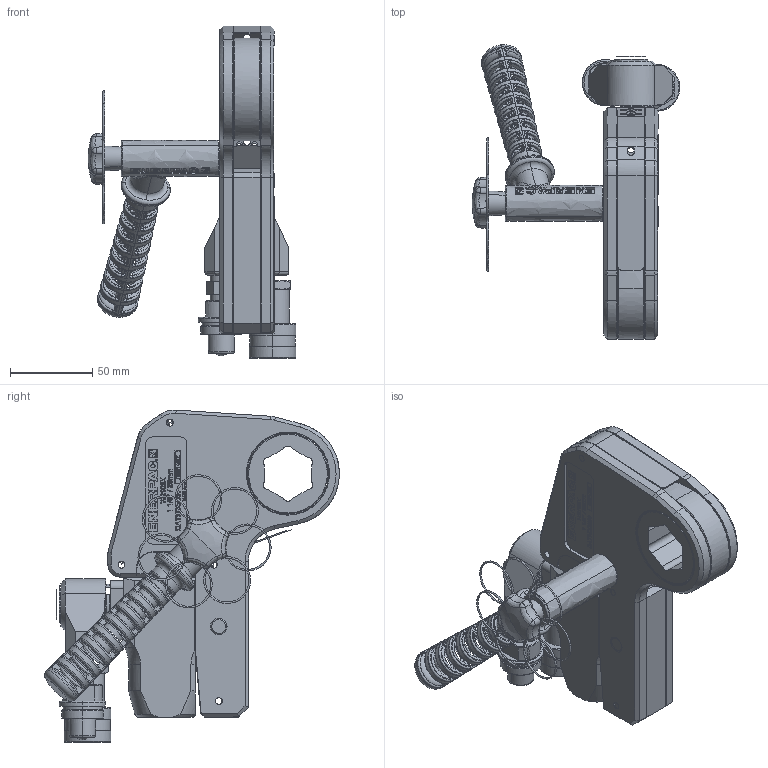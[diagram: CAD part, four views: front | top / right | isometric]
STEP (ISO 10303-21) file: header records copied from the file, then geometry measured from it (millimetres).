
FILE_DESCRIPTION((''),'2;1');
FILE_NAME('W2102X_WITH_W2000X','2015-03-31T',('david.cox'),(''),'PRO/ENGINEER BY PARAMETRIC TECHNOLOGY CORPORATION, 2014200','PRO/ENGINEER BY PARAMETRIC TECHNOLOGY CORPORATION, 2014200','');
FILE_SCHEMA(('CONFIG_CONTROL_DESIGN'));
Products named in the file (1): W2102X_WITH_W2000X
Bounding box: 126.05 x 178.85 x 201.46 mm (x, y, z)
Surface area: 134536.8 mm2 (no closed solid volume)
Topology: 0 solids, 0 shells, 800 faces, 6340 edges, 6267 vertices
Faces by surface type: bspline 710, torus 86, sphere 4
Entity records: 782360 total; most frequent: CARTESIAN_POINT 728435, DIRECTION 7767, TRIMMED_CURVE 6706, DEFINITIONAL_REPRESENTATION 6203, PCURVE 6203, COMPOSITE_CURVE_SEGMENT 6203, VECTOR 5825, LINE 5825
